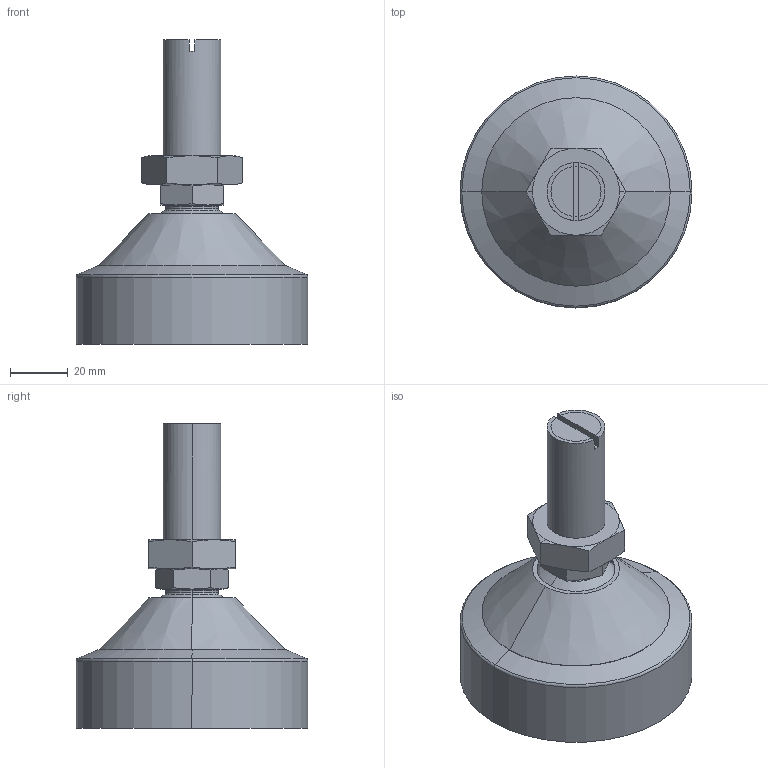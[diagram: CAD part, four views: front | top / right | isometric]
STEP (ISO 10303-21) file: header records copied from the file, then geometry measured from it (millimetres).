
FILE_DESCRIPTION((''),'1');
FILE_NAME('LALAH_M20_stainless.step','2020-05-13T09:24:01',(''),(''),'','','');
FILE_SCHEMA(('AUTOMOTIVE_DESIGN { 1 0 10303 214 1 1 1 1 }'));
Length unit declared in the file: metre
Products named in the file (4): LALAH M20_stainless; LALAH nut 01; LALAH part 02; LALAH base 01
Assembly tree (3 placements, depth 2):
  LALAH M20_stainless
    LALAH nut 01
    LALAH part 02
    LALAH base 01
Bounding box: 80 x 80 x 105 mm (x, y, z)
Volume: 165767.4 mm3; surface area: 42942.9 mm2
Topology: 3 solids, 4 shells, 94 faces, 209 edges, 125 vertices
Faces by surface type: cone 42, plane 26, cylinder 18, torus 6, sphere 2
Entity records: 2654 total; most frequent: CARTESIAN_POINT 528, DIRECTION 458, ORIENTED_EDGE 406, EDGE_CURVE 209, AXIS2_PLACEMENT_3D 199, VERTEX_POINT 125, CIRCLE 101, EDGE_LOOP 100
